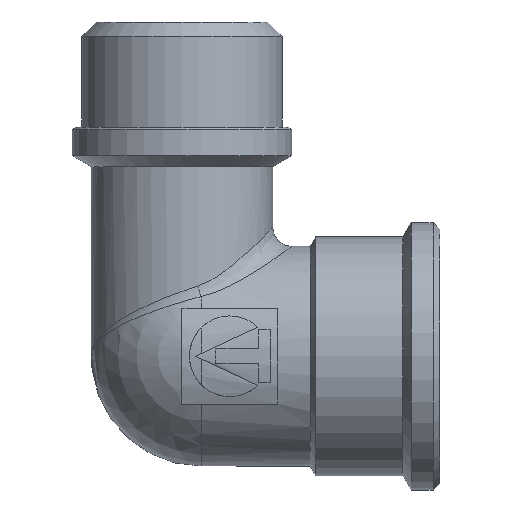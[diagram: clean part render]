
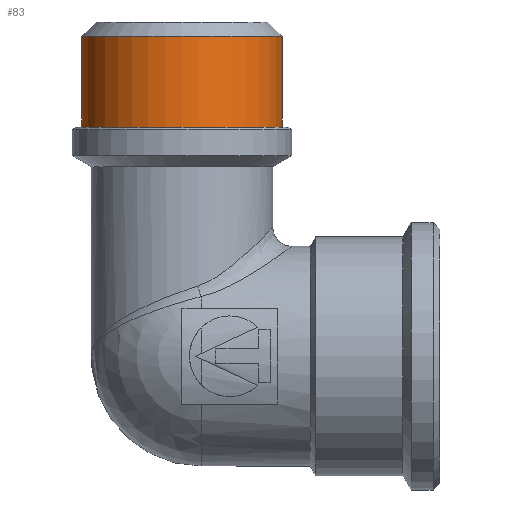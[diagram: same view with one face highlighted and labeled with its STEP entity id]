
A CAD part, left-side view. The second image highlights one B-rep face of the part: STEP entity #83.
In plain terms, the highlighted cylindrical face has radius 10.477 mm (diameter 20.955 mm), a full revolution.
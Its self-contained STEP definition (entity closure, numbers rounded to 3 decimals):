
#83=ADVANCED_FACE('',(#555,#557),#559,.T.);
#555=FACE_OUTER_BOUND('',#556,.T.);
#556=EDGE_LOOP('',(#3453));
#557=FACE_OUTER_BOUND('',#558,.T.);
#558=EDGE_LOOP('',(#3454));
#559=CYLINDRICAL_SURFACE('',#560,10.478);
#560=AXIS2_PLACEMENT_3D('',#561,#562,#563);
#561=CARTESIAN_POINT('',(0.,0.,24.));
#562=DIRECTION('',(0.,0.,1.));
#563=DIRECTION('',(0.,1.,0.));
#3453=ORIENTED_EDGE('',*,*,#4799,.T.);
#3454=ORIENTED_EDGE('',*,*,#4867,.T.);
#4799=EDGE_CURVE('',#5476,#5476,#5477,.T.);
#4867=EDGE_CURVE('',#5586,#5586,#5587,.T.);
#5476=VERTEX_POINT('',#7375);
#5477=CIRCLE('',#7376,10.478);
#5586=VERTEX_POINT('',#7854);
#5587=CIRCLE('',#7855,10.478);
#7375=CARTESIAN_POINT('',(0.,10.478,33.5));
#7376=AXIS2_PLACEMENT_3D('',#7377,#7378,#7379);
#7377=CARTESIAN_POINT('',(0.,0.,33.5));
#7378=DIRECTION('',(0.,0.,-1.));
#7379=DIRECTION('',(0.,1.,0.));
#7854=CARTESIAN_POINT('',(0.,10.478,24.));
#7855=AXIS2_PLACEMENT_3D('',#7856,#7857,#7858);
#7856=CARTESIAN_POINT('',(0.,0.,24.));
#7857=DIRECTION('',(0.,0.,1.));
#7858=DIRECTION('',(0.,1.,0.));
